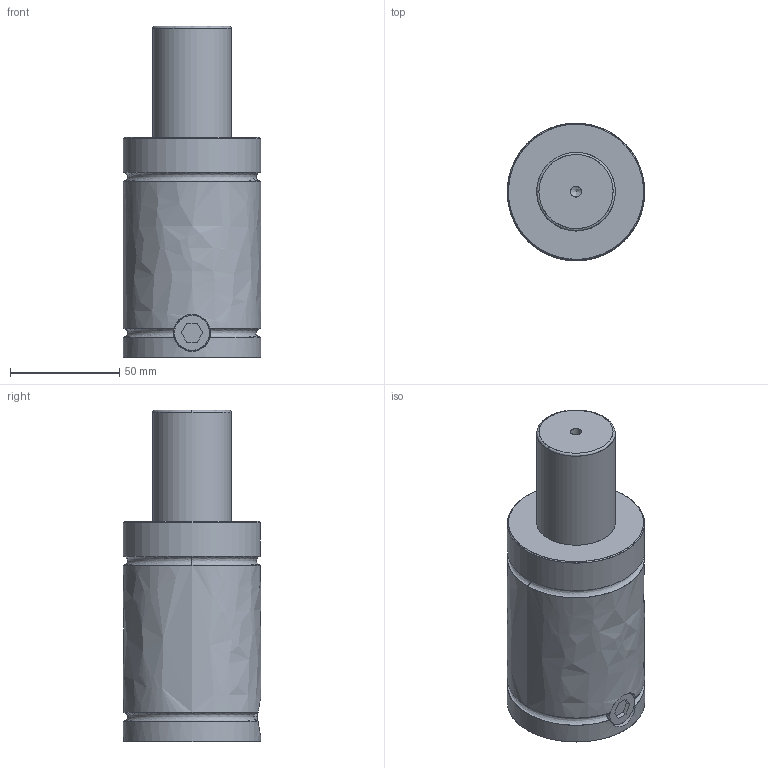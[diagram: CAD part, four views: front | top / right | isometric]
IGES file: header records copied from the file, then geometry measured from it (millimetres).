
Start section: VISI Layer Mapping Iges    VISI  0      LAYER_EMPTY  1      wwww  7      W_PD700  8      S_PD700  10     W_PD1000  11     S_PD1000  13     W_PD2000  14     S_PD2000  16     W_PD3000  17     S_PD3000  19     W_PD4000  20     S_PD4000  22     W_PD7000  23     S_PD7000  28     W_350  29     MS-350  30     MC-350  31     MP-350  32     MB-350  33     MH-350  34     MK-350  35     MPL-350  39     W_500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
Global section: file name: E:\だ錶臢\だ錶臢3D\SYLINDER\PT Series\PT1500\PT1500\PT1500-50.igs; native system: VISI 16.0; preprocessor: 2.0; author: 11; organization: 0; date: 500.; units: mil
Bounding box: 63 x 63 x 152 mm (x, y, z)
Surface area: 34715.3 mm2 (no closed solid volume)
Topology: 0 solids, 0 shells, 33 faces, 476 edges, 450 vertices
Faces by surface type: bspline 33
